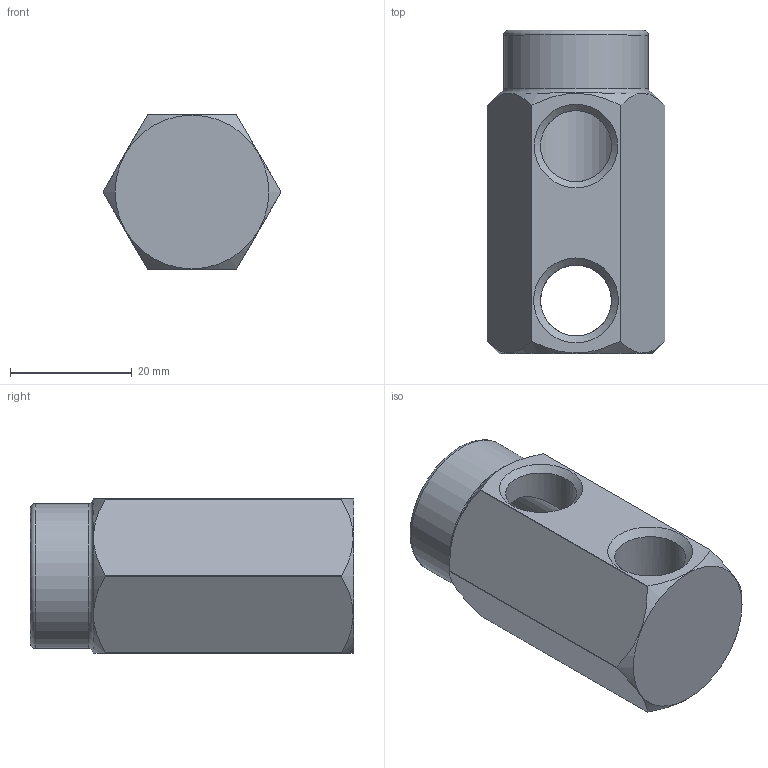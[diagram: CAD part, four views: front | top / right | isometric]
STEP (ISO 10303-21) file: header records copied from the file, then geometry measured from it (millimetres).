
FILE_DESCRIPTION(/* description */ (''),/* implementation_level */ '2;1');
FILE_NAME(/* name */ 'C:/Users/drich/Desktop/381H-4 v2.step',/* time_stamp */ '2020-01-10T20:21:48-06:00',/* author */ (''),/* organization */ (''),/* preprocessor_version */ 'ST-DEVELOPER v18',/* originating_system */ 'Autodesk Translation Framework v8.12.0.6',/* authorisation */ '');
FILE_SCHEMA (('AUTOMOTIVE_DESIGN { 1 0 10303 214 3 1 1 }'));
Length unit declared in the file: inch
Products named in the file (2): 381H-4; 381H-4_1
Assembly tree (1 placements, depth 2):
  381H-4
    381H-4_1
Bounding box: 29.26 x 53.16 x 25.4 mm (x, y, z)
Volume: 19422.2 mm3; surface area: 7629.8 mm2
Topology: 1 solids, 1 shells, 31 faces, 89 edges, 59 vertices
Faces by surface type: cylinder 12, cone 9, plane 8, torus 2
Full cylindrical faces by diameter (mm): 6.909 x1, 11.668 x3, 15.173 x1, 23.8 x1
Entity records: 1173 total; most frequent: CARTESIAN_POINT 305, ORIENTED_EDGE 178, DIRECTION 175, EDGE_CURVE 89, AXIS2_PLACEMENT_3D 75, VERTEX_POINT 59, CIRCLE 41, EDGE_LOOP 36
